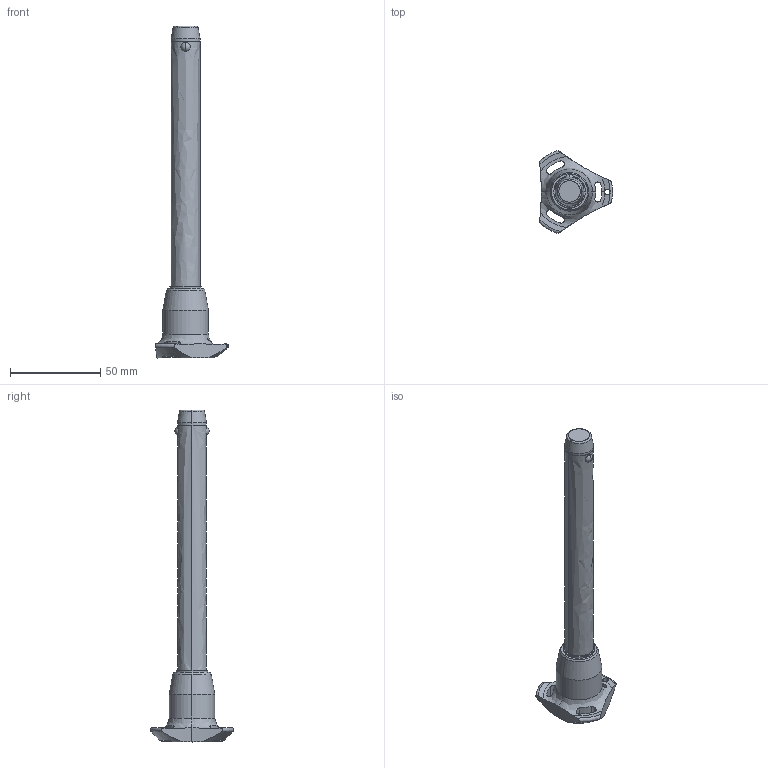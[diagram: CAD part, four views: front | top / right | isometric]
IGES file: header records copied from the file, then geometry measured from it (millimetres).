
Start section: SolidWorks IGES file using analytic representation for surfaces
Global section: file name: C:\Users\ianosborn\Desktop\33060_v2\33060.BK_v2_20240910_IGES\33060.W0901.igs; native system: SolidWorks 2019; preprocessor: SolidWorks 2019; author: IanOsborn; date: 240910.201952; units: millimetre
Bounding box: 40.5 x 45.88 x 183.7 mm (x, y, z)
Surface area: 13127.5 mm2 (no closed solid volume)
Topology: 0 solids, 0 shells, 68 faces, 1402 edges, 1398 vertices
Faces by surface type: revolution 52, bspline 16
